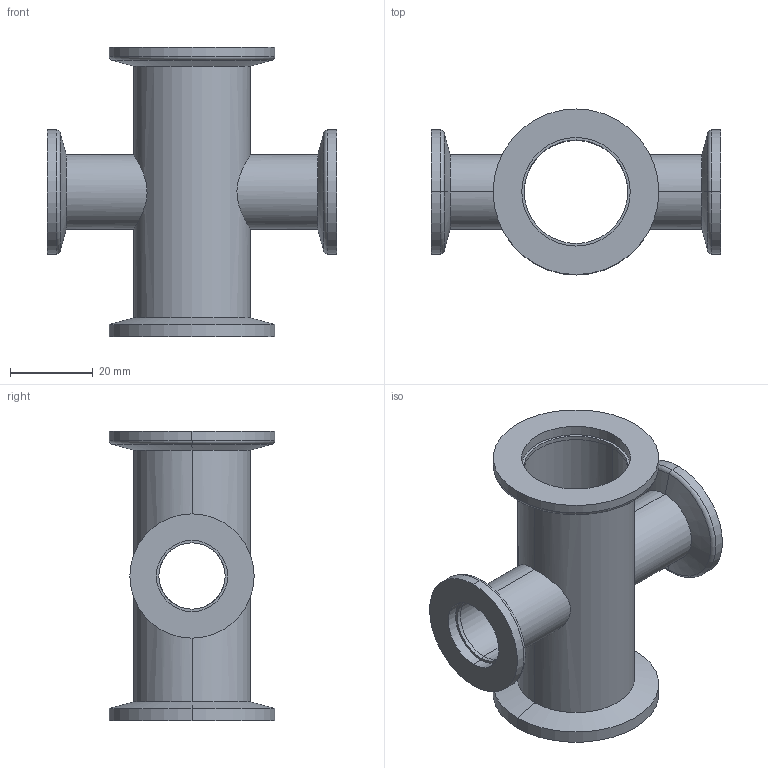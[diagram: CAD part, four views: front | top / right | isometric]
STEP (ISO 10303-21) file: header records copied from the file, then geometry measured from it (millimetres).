
FILE_DESCRIPTION (( 'STEP AP214' ), '1' );
FILE_NAME ('W3RKS25-16.STEP', '2020-08-20T12:53:42', ( '' ), ( '' ), 'SwSTEP 2.0', 'SolidWorks 2020', '' );
FILE_SCHEMA (( 'AUTOMOTIVE_DESIGN' ));
Length unit declared in the file: millimetre
Products named in the file (1): W3RKS25-16
Bounding box: 70 x 40 x 70 mm (x, y, z)
Volume: 18745 mm3; surface area: 22038.1 mm2
Topology: 7 solids, 7 shells, 81 faces, 170 edges, 102 vertices
Faces by surface type: cylinder 51, plane 16, cone 8, torus 6
Entity records: 2988 total; most frequent: CARTESIAN_POINT 1086, DIRECTION 410, ORIENTED_EDGE 340, AXIS2_PLACEMENT_3D 174, EDGE_CURVE 170, VERTEX_POINT 102, EDGE_LOOP 98, CIRCLE 92
